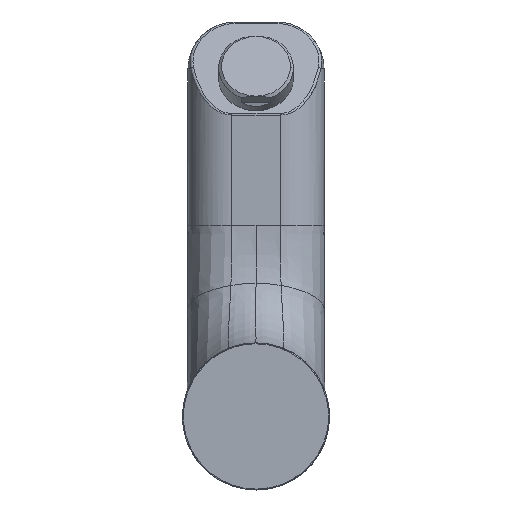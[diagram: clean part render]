
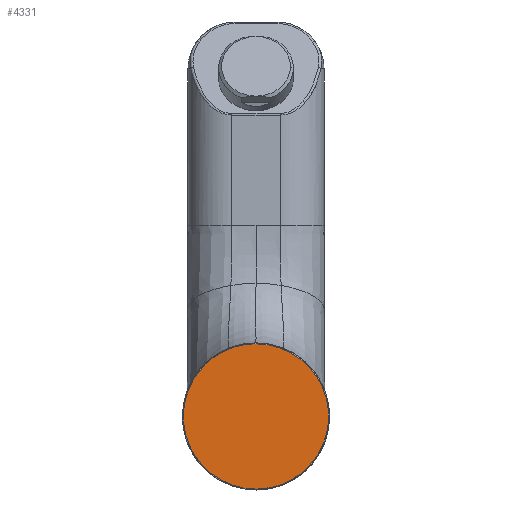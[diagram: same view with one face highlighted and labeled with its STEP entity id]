
A CAD part, front view. The second image highlights one B-rep face of the part: STEP entity #4331.
In plain terms, the highlighted planar face has unit normal (0, -1, 0).
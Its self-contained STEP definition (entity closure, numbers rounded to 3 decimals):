
#439 = CARTESIAN_POINT ( 'NONE',  ( 0., 0., 0. ) ) ;
#786 = CARTESIAN_POINT ( 'NONE',  ( 0.053, 0., 23.195 ) ) ;
#1214 = EDGE_CURVE ( 'NONE', #7543, #2100, #8132, .T. ) ;
#1310 = ORIENTED_EDGE ( 'NONE', *, *, #11819, .F. ) ;
#1413 = CARTESIAN_POINT ( 'NONE',  ( 46.076, 0., -23.195 ) ) ;
#2100 = VERTEX_POINT ( 'NONE', #8123 ) ;
#2217 = CARTESIAN_POINT ( 'NONE',  ( 0., 0., 23.195 ) ) ;
#2603 = CARTESIAN_POINT ( 'NONE',  ( -0.158, 0., -23.194 ) ) ;
#2701 = CARTESIAN_POINT ( 'NONE',  ( -0.053, 0., -23.195 ) ) ;
#3686 = ORIENTED_EDGE ( 'NONE', *, *, #9895, .F. ) ;
#4331 = ADVANCED_FACE ( 'NONE', ( #8070 ), #10102, .T. ) ;
#4432 = CARTESIAN_POINT ( 'NONE',  ( 0., 0., -23.195 ) ) ;
#5201 = ORIENTED_EDGE ( 'NONE', *, *, #11725, .F. ) ;
#5851 = CARTESIAN_POINT ( 'NONE',  ( 0.105, 0., 23.195 ) ) ;
#6650 = CARTESIAN_POINT ( 'NONE',  ( 0., 0., 23.195 ) ) ;
#6823 = CARTESIAN_POINT ( 'NONE',  ( -0.158, 0., -23.194 ) ) ;
#7319 = EDGE_LOOP ( 'NONE', ( #1310, #5201, #8096, #3686 ) ) ;
#7390 = CARTESIAN_POINT ( 'NONE',  ( 46.233, 0., 22.88 ) ) ;
#7543 = VERTEX_POINT ( 'NONE', #2217 ) ;
#8070 = FACE_OUTER_BOUND ( 'NONE', #7319, .T. ) ;
#8096 = ORIENTED_EDGE ( 'NONE', *, *, #1214, .F. ) ;
#8123 = CARTESIAN_POINT ( 'NONE',  ( 0.158, 0., 23.194 ) ) ;
#8132 =( BOUNDED_CURVE ( )  B_SPLINE_CURVE ( 3, ( #6650, #786, #5851, #9667 ),
 .UNSPECIFIED., .F., .F. ) 
 B_SPLINE_CURVE_WITH_KNOTS ( ( 4, 4 ),
 ( 0., 0.002 ),
 .UNSPECIFIED. ) 
 CURVE ( )  GEOMETRIC_REPRESENTATION_ITEM ( )  RATIONAL_B_SPLINE_CURVE ( ( 1., 1., 1., 1. ) ) 
 REPRESENTATION_ITEM ( '' )  );
#8579 = CARTESIAN_POINT ( 'NONE',  ( -0.105, 0., -23.195 ) ) ;
#9667 = CARTESIAN_POINT ( 'NONE',  ( 0.158, 0., 23.194 ) ) ;
#9847 = CARTESIAN_POINT ( 'NONE',  ( -46.233, 0., -22.88 ) ) ;
#9895 = EDGE_CURVE ( 'NONE', #10995, #7543, #12774, .T. ) ;
#10102 = PLANE ( 'NONE',  #12497 ) ;
#10995 = VERTEX_POINT ( 'NONE', #2603 ) ;
#11282 = CARTESIAN_POINT ( 'NONE',  ( 0., 0., -23.195 ) ) ;
#11719 = CARTESIAN_POINT ( 'NONE',  ( 0., 0., -23.195 ) ) ;
#11725 = EDGE_CURVE ( 'NONE', #2100, #12706, #12338, .T. ) ;
#11819 = EDGE_CURVE ( 'NONE', #12706, #10995, #11921, .T. ) ;
#11921 =( BOUNDED_CURVE ( )  B_SPLINE_CURVE ( 3, ( #11719, #2701, #8579, #12583 ),
 .UNSPECIFIED., .F., .T. ) 
 B_SPLINE_CURVE_WITH_KNOTS ( ( 4, 4 ),
 ( 0., 0.002 ),
 .UNSPECIFIED. ) 
 CURVE ( )  GEOMETRIC_REPRESENTATION_ITEM ( )  RATIONAL_B_SPLINE_CURVE ( ( 1., 1., 1., 1. ) ) 
 REPRESENTATION_ITEM ( '' )  );
#12007 = CARTESIAN_POINT ( 'NONE',  ( 0., 0., 23.195 ) ) ;
#12070 = CARTESIAN_POINT ( 'NONE',  ( -46.076, 0., 23.195 ) ) ;
#12315 = CARTESIAN_POINT ( 'NONE',  ( 0.158, 0., 23.194 ) ) ;
#12338 =( BOUNDED_CURVE ( )  B_SPLINE_CURVE ( 3, ( #12315, #7390, #1413, #4432 ),
 .UNSPECIFIED., .F., .T. ) 
 B_SPLINE_CURVE_WITH_KNOTS ( ( 4, 4 ),
 ( 0.002, 1. ),
 .UNSPECIFIED. ) 
 CURVE ( )  GEOMETRIC_REPRESENTATION_ITEM ( )  RATIONAL_B_SPLINE_CURVE ( ( 1., 0.336, 0.336, 1. ) ) 
 REPRESENTATION_ITEM ( '' )  );
#12389 = DIRECTION ( 'NONE',  ( 0., -1., 0. ) ) ;
#12497 = AXIS2_PLACEMENT_3D ( 'NONE', #439, #12389, #12590 ) ;
#12583 = CARTESIAN_POINT ( 'NONE',  ( -0.158, 0., -23.194 ) ) ;
#12590 = DIRECTION ( 'NONE',  ( 0., 0., -1. ) ) ;
#12706 = VERTEX_POINT ( 'NONE', #11282 ) ;
#12774 =( BOUNDED_CURVE ( )  B_SPLINE_CURVE ( 3, ( #6823, #9847, #12070, #12007 ),
 .UNSPECIFIED., .F., .F. ) 
 B_SPLINE_CURVE_WITH_KNOTS ( ( 4, 4 ),
 ( 0.002, 1. ),
 .UNSPECIFIED. ) 
 CURVE ( )  GEOMETRIC_REPRESENTATION_ITEM ( )  RATIONAL_B_SPLINE_CURVE ( ( 1., 0.336, 0.336, 1. ) ) 
 REPRESENTATION_ITEM ( '' )  );
